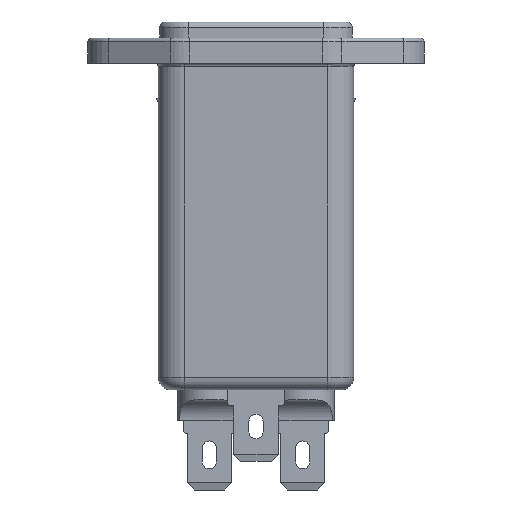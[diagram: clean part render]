
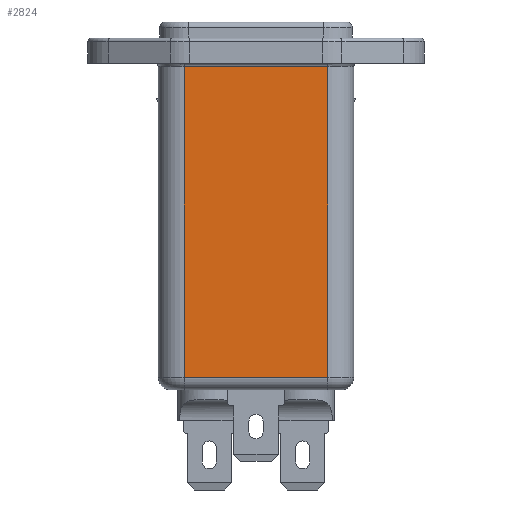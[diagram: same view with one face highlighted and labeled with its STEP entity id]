
A CAD part, left-side view. The second image highlights one B-rep face of the part: STEP entity #2824.
In plain terms, the highlighted planar face has unit normal (-1, 0, 0).
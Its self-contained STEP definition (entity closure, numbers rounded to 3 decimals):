
#2629=CARTESIAN_POINT('',(25.1,51.759,47.8));
#2630=VERTEX_POINT('',#2629);
#2695=CARTESIAN_POINT('',(25.1,31.259,47.8));
#2696=VERTEX_POINT('',#2695);
#2713=CARTESIAN_POINT('',(25.1,51.759,47.8));
#2714=DIRECTION('',(0.0,-1.0,0.0));
#2715=VECTOR('',#2714,20.5);
#2716=LINE('',#2713,#2715);
#2717=EDGE_CURVE('',#2630,#2696,#2716,.T.);
#2794=CARTESIAN_POINT('',(25.1,51.759,48.8));
#2795=DIRECTION('',(-1.0,0.0,0.0));
#2796=DIRECTION('',(0.0,1.0,0.0));
#2797=AXIS2_PLACEMENT_3D('',#2794,#2795,#2796);
#2798=PLANE('',#2797);
#2799=ORIENTED_EDGE('',*,*,#2717,.F.);
#2800=CARTESIAN_POINT('',(25.1,51.759,3.5));
#2801=VERTEX_POINT('',#2800);
#2802=CARTESIAN_POINT('',(25.1,51.759,47.8));
#2803=DIRECTION('',(0.0,0.0,-1.0));
#2804=VECTOR('',#2803,44.3);
#2805=LINE('',#2802,#2804);
#2806=EDGE_CURVE('',#2630,#2801,#2805,.T.);
#2807=ORIENTED_EDGE('',*,*,#2806,.T.);
#2808=CARTESIAN_POINT('',(25.1,31.259,3.5));
#2809=VERTEX_POINT('',#2808);
#2810=CARTESIAN_POINT('',(25.1,31.259,3.5));
#2811=DIRECTION('',(0.0,1.0,0.0));
#2812=VECTOR('',#2811,20.5);
#2813=LINE('',#2810,#2812);
#2814=EDGE_CURVE('',#2809,#2801,#2813,.T.);
#2815=ORIENTED_EDGE('',*,*,#2814,.F.);
#2816=CARTESIAN_POINT('',(25.1,31.259,47.8));
#2817=DIRECTION('',(0.0,0.0,-1.0));
#2818=VECTOR('',#2817,44.3);
#2819=LINE('',#2816,#2818);
#2820=EDGE_CURVE('',#2696,#2809,#2819,.T.);
#2821=ORIENTED_EDGE('',*,*,#2820,.F.);
#2822=EDGE_LOOP('',(#2799,#2807,#2815,#2821));
#2823=FACE_OUTER_BOUND('',#2822,.T.);
#2824=ADVANCED_FACE('',(#2823),#2798,.T.);
